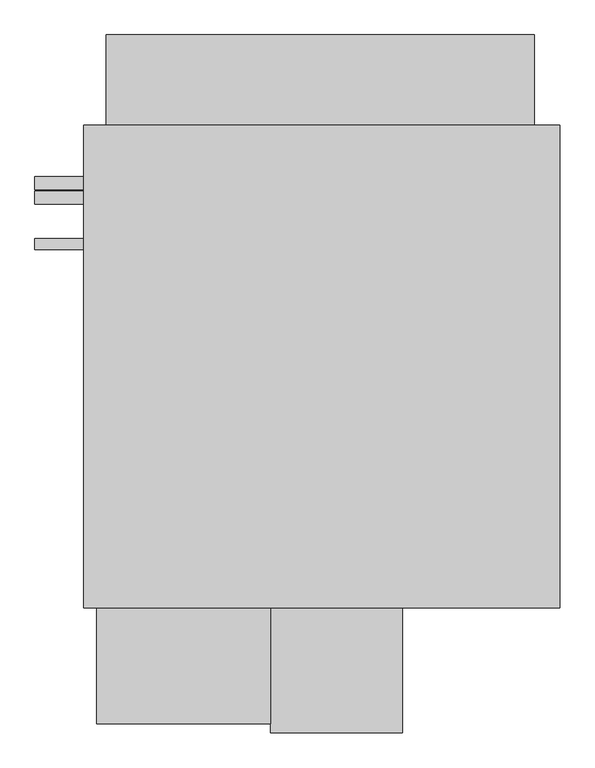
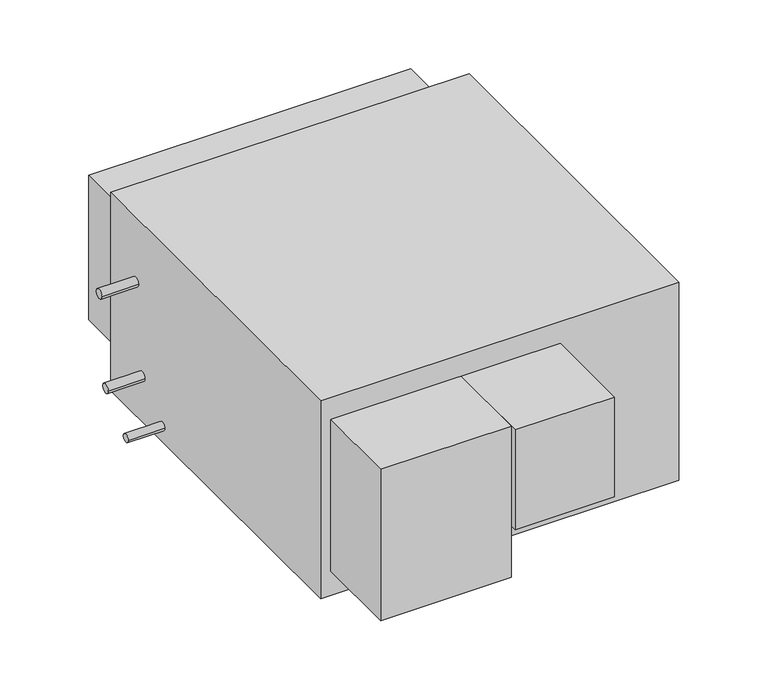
"""IFC4 building model written with IfcOpenShell, lengths in millimetres: proxy geometry, Horizontal_Direct_Drive_Blower_Coil_Unit_-_42DHA_-_CARRIER_-_2-Pipe_Cool-EHeat_LH_2022 : Size 10 - 460v/60Hz/3Ph - 8 Row 9.9kW LH."""

from ifc_helpers import new_model, si_unit, point, frame, frame_2d, origin, place, context, project, spatial, polyline, circle_curve, trimmed, segment, composite_curve, outline, extrude, source, transform, mapped, element, save


def mechanical_equipment_4589439a(model_context):
    return source(origin(), model_context, "Body", "SweptSolid", [
        extrude(outline(composite_curve([segment(trimmed(circle_curve(frame_2d((377.825, -177.8)), 12.7), [point((365.125, -177.8))], [point((390.525, -177.8))], False, "CARTESIAN"), True, "CONTINUOUS"), segment(trimmed(circle_curve(frame_2d((377.825, -177.8)), 12.7), [point((390.525, -177.8))], [point((365.125, -177.8))], False, "CARTESIAN"), True, "CONTINUOUS")], self_intersect=False)), frame((-1163.1025559, 0.0, 0.0), z_axis=(1.0, 0.0, 0.0), x_axis=(0.0, 1.0, 0.0)), (0.0, 0.0, 1.0), 96.3025559),
        extrude(outline(composite_curve([segment(trimmed(circle_curve(frame_2d((348.9715397, -422.2558174)), 12.7), [point((336.2715397, -422.2558174))], [point((361.6715397, -422.2558174))], False, "CARTESIAN"), True, "CONTINUOUS"), segment(trimmed(circle_curve(frame_2d((348.9715397, -422.2558174)), 12.7), [point((361.6715397, -422.2558174))], [point((336.2715397, -422.2558174))], False, "CARTESIAN"), True, "CONTINUOUS")], self_intersect=False)), frame((-1163.1025559, 0.0, 0.0), z_axis=(1.0, 0.0, 0.0), x_axis=(0.0, 1.0, 0.0)), (0.0, 0.0, 1.0), 96.3025559),
        extrude(outline(composite_curve([segment(trimmed(circle_curve(frame_2d((257.175, -504.8058174)), 11.1125), [point((246.0625, -504.8058174))], [point((268.2875, -504.8058174))], False, "CARTESIAN"), True, "CONTINUOUS"), segment(trimmed(circle_curve(frame_2d((257.175, -504.8058174)), 11.1125), [point((268.2875, -504.8058174))], [point((246.0625, -504.8058174))], False, "CARTESIAN"), True, "CONTINUOUS")], self_intersect=False)), frame((-1163.1025559, 0.0, 0.0), z_axis=(1.0, 0.0, 0.0), x_axis=(0.0, 1.0, 0.0)), (0.0, 0.0, 1.0), 96.3025559),
        extrude(outline(polyline([(-127.0, 492.125), (-127.0, -460.375), (-1066.8, -460.375), (-1066.8, 492.125), (-127.0, 492.125)])), frame((0.0, 0.0, -549.2558174), z_axis=(0.0, 0.0, 1.0), x_axis=(1.0, 0.0, 0.0)), (0.0, 0.0, 1.0), 549.2558174),
        extrude(outline(polyline([(-698.5, -688.975), (-1041.4, -688.975), (-1041.4, -460.375), (-698.5, -460.375), (-698.5, -688.975)])), frame((0.0, 0.0, -479.4058174), z_axis=(0.0, 0.0, 1.0), x_axis=(1.0, 0.0, 0.0)), (0.0, 0.0, 1.0), 419.1),
        extrude(outline(polyline([(-1022.35, 669.925), (-177.8, 669.925), (-177.8, 492.125), (-1022.35, 492.125), (-1022.35, 669.925)])), frame((0.0, 0.0, -476.2308174), z_axis=(0.0, 0.0, 1.0), x_axis=(1.0, 0.0, 0.0)), (0.0, 0.0, 1.0), 400.05),
        extrude(outline(polyline([(-438.15, -706.4375), (-698.5, -706.4375), (-698.5, -460.375), (-438.15, -460.375), (-438.15, -706.4375)])), frame((0.0, 0.0, -336.5308174), z_axis=(0.0, 0.0, 1.0), x_axis=(1.0, 0.0, 0.0)), (0.0, 0.0, 1.0), 276.225),
    ])


if __name__ == "__main__":
    model = new_model("IFC4")
    model_context = context("Model", 3, world=origin())
    ifc_project = project(units=[si_unit("LENGTHUNIT", "METRE", prefix="MILLI")], contexts=[model_context])
    site = spatial("IfcSite", under=ifc_project)
    building = spatial("IfcBuilding", under=site)
    placement = place(None, origin())
    mechanical_equipment_shape = mechanical_equipment_4589439a(model_context)
    element("IfcBuildingElementProxy", 1, Name="Horizontal_Direct_Drive_Blower_Coil_Unit_-_42DHA_-_CARRIER_-_2-Pipe_Cool-EHeat_LH_2022 : Size 10 - 460v/60Hz/3Ph - 8 Row 9.9kW LH", ObjectType="Horizontal_Direct_Drive_Blower_Coil_Unit_-_42DHA_-_CARRIER_-_2-Pipe_Cool-EHeat_LH_2022 : Size 10 - 460v/60Hz/3Ph - 8 Row 9.9kW LH", at=placement, inside=building, context=model_context, shape_type="MappedRepresentation", body=[
        mapped(mechanical_equipment_shape, transform((0.0, 0.0, 0.0), x_axis=(1.0, 0.0, 0.0), y_axis=(0.0, 1.0, 0.0), z_axis=(0.0, 0.0, 1.0))),
    ])
    save(model, "model.ifc")
